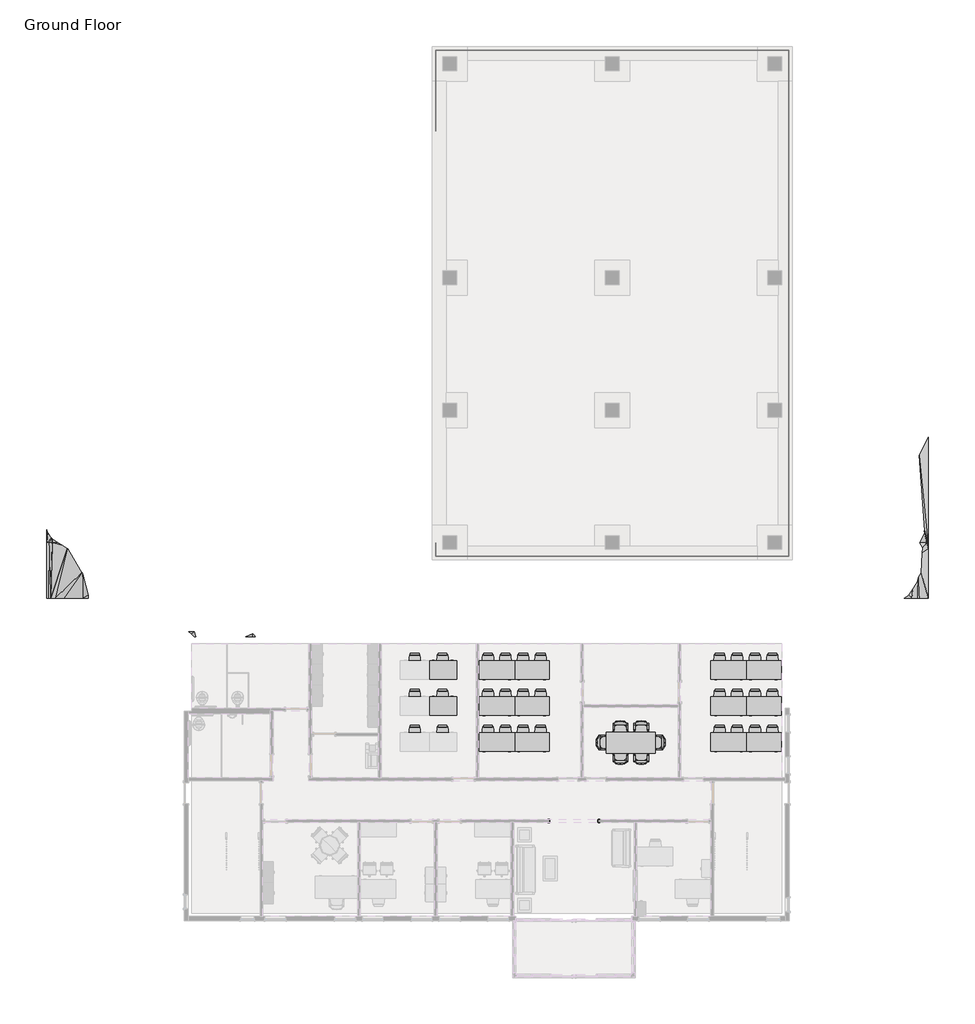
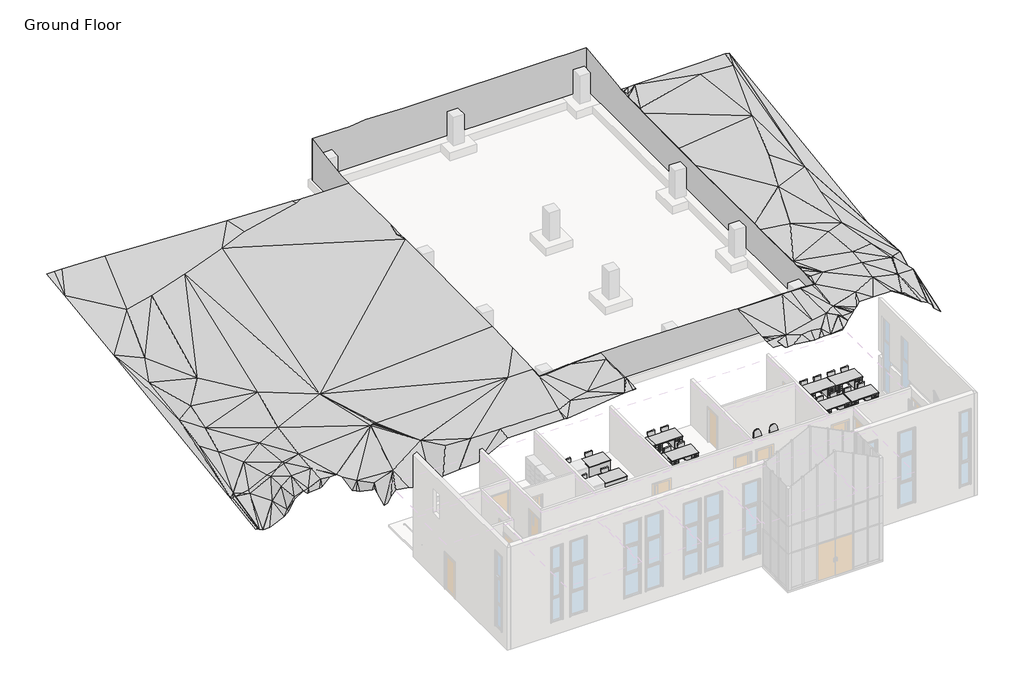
# One storey, part 5 of 5: 51 furniture elements, 6 proxies.
"""IFC4 building model written with IfcOpenShell, lengths in millimetres."""

from ifc_helpers import new_model, si_unit, origin, place, context, project, spatial, triangles, transform, mapped, element, save
from components import proxy_91883092, chair_desk_chair_desk_ccc35c8f, chair_desk_chair_desk_1723cfae, chair_executive_chair_executive_8d69e98c, chair_executive_chair_executive_a5be4872, desk_8768a1f0, furniture_da8d8c81, furniture_072f6425, furniture_8f69458c

model = new_model("IFC4")

# Units and contexts
model_context = context("Model", 3, world=origin())
ifc_project = project(units=[si_unit("LENGTHUNIT", "METRE", prefix="MILLI")], contexts=[model_context])

# Site, building, storey
site = spatial("IfcSite", under=ifc_project)
building = spatial("IfcBuilding", under=site)
storey = spatial("IfcBuildingStorey", under=building, Name="Ground Floor", Elevation=39624.0)

# Proxies
placement = place(None, origin())
element("IfcBuildingElementProxy", 1, Name="Building Element Proxy", at=placement, inside=storey, context=model_context, shape_type="Tessellation", body=[
    triangles([(-14825.691568, 492.0480183, 40208.0387695), (-14825.691568, 492.0480183, 42487.8484497), (-14825.691568, -117.5519817, 40208.0387695), (-14825.691568, -117.5519817, 42463.9010742), (-14757.6306061, -117.5519817, 40208.0387695), (-14757.6306061, -117.5519817, 42463.6452759), (-14512.0688507, -117.5519817, 40208.0387695), (-14512.0688507, -117.5519817, 42461.6267944), (-13213.2923126, -117.5519817, 40208.0387695), (-13213.2923126, -117.5519817, 42576.5035034), (-13097.3819458, -117.5519817, 40208.0387695), (-13097.3819458, -117.5519817, 42584.5960327), (-12971.3128967, -117.5519817, 40208.0387695), (-12971.3128967, -117.5519817, 42587.8144409), (-11376.8358032, -117.5519817, 40208.0387695), (-11376.8358032, -117.5519817, 42662.358728), (-9536.2214081, -117.5519817, 40208.0387695), (-9536.2214081, -117.5519817, 42672.0), (-3847.7395569, -117.5519817, 40208.0387695), (-3847.7395569, -117.5519817, 42566.3971436), (-3707.1806946, -117.5519817, 40208.0387695), (-3707.1806946, -117.5519817, 42560.4626221), (-3634.6755272, -117.5519817, 40208.0387695), (-3634.6755272, -117.5519817, 42564.4902832), (-3531.6614662, -117.5519817, 40208.0387695), (-3531.6614662, -117.5519817, 42567.2436035), (-1118.1737537, -117.5519817, 40208.0387695), (-1118.1737537, -117.5519817, 42573.7083252), (-930.609403, -117.5519817, 40208.0387695), (-930.609403, -117.5519817, 42573.7083252), (-844.679183, -117.5519817, 40208.0387695), (-844.679183, -117.5519817, 42573.294397), (-649.1245497, -117.5519817, 40208.0387695), (-649.1245497, -117.5519817, 42573.294397), (-127.0019591, -117.5519817, 40208.0387695), (-127.0019591, -117.5519817, 42561.9276489), (-95.457382, -117.5519817, 40208.0387695), (-95.457382, -117.5519817, 42561.002124), (-81.5194064, -117.5519817, 40208.0387695), (-81.5194064, -117.5519817, 42560.5602905), (359.6249602, -117.5519817, 40208.0387695), (359.6249602, -117.5519817, 42547.2680786), (534.7179065, -117.5519817, 40208.0387695), (534.7179065, -117.5519817, 42544.4682495), (617.5082382, -117.5519817, 40208.0387695), (617.5082382, -117.5519817, 42539.3662354), (617.5082382, 264.7806404, 40208.0387695), (617.5082382, 264.7806404, 42574.5966431), (617.5082382, 394.358814, 40208.0387695), (617.5082382, 394.358814, 42585.2564575), (617.5082382, 451.9540266, 40208.0387695), (617.5082382, 451.9540266, 42590.4049805), (617.5082382, 637.5418991, 40208.0387695), (617.5082382, 637.5418991, 42607.362085), (617.5082382, 763.1747103, 40208.0387695), (617.5082382, 763.1747103, 42618.5660522), (617.5082382, 1043.7543137, 40208.0387695), (617.5082382, 1043.7543137, 42641.2669922), (617.5082382, 1280.1252056, 40208.0387695), (617.5082382, 1280.1252056, 42643.3924438), (617.5082382, 1508.353862, 40208.0387695), (617.5082382, 1508.353862, 42614.7011719), (617.5082382, 1878.4754562, 40208.0387695), (617.5082382, 1878.4754562, 42622.5518555), (617.5082382, 2208.9770851, 40208.0387695), (617.5082382, 2208.9770851, 42619.3939087), (617.5082382, 5133.5709549, 40208.0387695), (617.5082382, 5133.5709549, 42591.4421265), (617.5082382, 5682.8653336, 40208.0387695), (617.5082382, 5682.8653336, 42616.7894165), (617.5082382, 10958.6008667, 40208.0387695), (617.5082382, 10958.6008667, 42587.1307617), (617.5082382, 11488.1778442, 40208.0387695), (617.5082382, 11488.1778442, 42584.1541992), (617.5082382, 12358.5351837, 40208.0387695), (617.5082382, 12358.5351837, 42601.8042847), (617.5082382, 13073.4461975, 40208.0387695), (617.5082382, 13073.4461975, 42613.622168), (617.5082382, 16325.7674469, 40208.0387695), (617.5082382, 16325.7674469, 42643.387793), (617.5082382, 16505.0623169, 40208.0387695), (617.5082382, 16505.0623169, 42645.0295532), (617.5082382, 16869.3819397, 40208.0387695), (617.5082382, 16869.3819397, 42672.0), (617.5082382, 17870.5045532, 40208.0387695), (617.5082382, 17870.5045532, 42672.0), (617.5082382, 18298.5237762, 40208.0387695), (617.5082382, 18298.5237762, 42698.9006836), (617.5082382, 18345.6383423, 40208.0387695), (617.5082382, 18345.6383423, 42704.030603), (617.5082382, 18487.4448029, 40208.0387695), (617.5082382, 18487.4448029, 42722.9085205), (617.5082382, 18672.6218719, 40208.0387695), (617.5082382, 18672.6218719, 42728.2012207), (617.5082382, 18777.5015167, 40208.0387695), (617.5082382, 18777.5015167, 42742.2887329), (617.5082382, 18802.5011536, 40208.0387695), (617.5082382, 18802.5011536, 42744.9955444), (617.5082382, 22031.2482605, 40208.0387695), (617.5082382, 22031.2482605, 43174.8204712)], [[1, 4, 2], [1, 3, 4], [3, 6, 4], [3, 5, 6], [5, 8, 6], [5, 7, 8], [7, 10, 8], [7, 9, 10], [9, 12, 10], [9, 11, 12], [11, 14, 12], [11, 13, 14], [13, 16, 14], [13, 15, 16], [15, 18, 16], [15, 17, 18], [17, 20, 18], [17, 19, 20], [19, 22, 20], [19, 21, 22], [21, 24, 22], [21, 23, 24], [23, 26, 24], [23, 25, 26], [25, 28, 26], [25, 27, 28], [27, 30, 28], [27, 29, 30], [29, 32, 30], [29, 31, 32], [31, 34, 32], [31, 33, 34], [33, 36, 34], [33, 35, 36], [35, 38, 36], [35, 37, 38], [37, 40, 38], [37, 39, 40], [39, 42, 40], [39, 41, 42], [41, 44, 42], [41, 43, 44], [43, 46, 44], [43, 45, 46], [45, 48, 46], [45, 47, 48], [47, 50, 48], [47, 49, 50], [49, 52, 50], [49, 51, 52], [51, 54, 52], [51, 53, 54], [53, 56, 54], [53, 55, 56], [55, 58, 56], [55, 57, 58], [57, 60, 58], [57, 59, 60], [59, 62, 60], [59, 61, 62], [61, 64, 62], [61, 63, 64], [63, 66, 64], [63, 65, 66], [65, 68, 66], [65, 67, 68], [67, 70, 68], [67, 69, 70], [69, 72, 70], [69, 71, 72], [71, 74, 72], [71, 73, 74], [73, 76, 74], [73, 75, 76], [75, 78, 76], [75, 77, 78], [77, 80, 78], [77, 79, 80], [79, 82, 80], [79, 81, 82], [81, 84, 82], [81, 83, 84], [83, 86, 84], [83, 85, 86], [85, 88, 86], [85, 87, 88], [87, 90, 88], [87, 89, 90], [89, 92, 90], [89, 91, 92], [91, 94, 92], [91, 93, 94], [93, 96, 94], [93, 95, 96], [95, 98, 96], [95, 97, 98], [97, 100, 98], [97, 99, 100]], closed=False),
    triangles([(617.5082382, 22031.2482605, 40208.0387695), (617.5082382, 22031.2482605, 43174.8204712), (-625.5177784, 22031.2482605, 40208.0387695), (-625.5177784, 22031.2482605, 43164.5048218), (-939.6762188, 22031.2482605, 40208.0387695), (-939.6762188, 22031.2482605, 43182.085144), (-9687.3302078, 22031.2482605, 40208.0387695), (-9687.3302078, 22031.2482605, 43197.8748779), (-11842.5794678, 22031.2482605, 40208.0387695), (-11842.5794678, 22031.2482605, 43253.5970581), (-12708.2661621, 22031.2482605, 40208.0387695), (-12708.2661621, 22031.2482605, 43153.3520142), (-13690.3341248, 22031.2482605, 40208.0387695), (-13690.3341248, 22031.2482605, 43149.6359619), (-14825.691568, 22031.2482605, 40208.0387695), (-14825.691568, 22031.2482605, 43169.9603027), (-14825.691568, 20748.5567871, 40208.0387695), (-14825.691568, 20748.5567871, 42941.2300781), (-14825.691568, 19138.3294922, 40208.0387695), (-14825.691568, 19138.3294922, 42684.9945557), (-14825.691568, 18969.9025635, 40208.0387695), (-14825.691568, 18969.9025635, 42672.0), (-14825.691568, 18475.2478729, 40208.0387695), (-14825.691568, 18475.2478729, 42672.0)], [[1, 4, 2], [1, 3, 4], [3, 6, 4], [3, 5, 6], [5, 8, 6], [5, 7, 8], [7, 10, 8], [7, 9, 10], [9, 12, 10], [9, 11, 12], [11, 14, 12], [11, 13, 14], [13, 16, 14], [13, 15, 16], [15, 18, 16], [15, 17, 18], [17, 20, 18], [17, 19, 20], [19, 22, 20], [19, 21, 22], [21, 24, 22], [21, 23, 24]], closed=False),
    triangles([(617.5082382, 22031.2482605, 40208.0387695), (-14825.691568, 22031.2482605, 40208.0387695), (-14825.691568, -117.5519817, 40208.0387695), (617.5082382, -117.5519817, 40208.0387695)], [[2, 3, 1], [4, 1, 3]], closed=False),
])
element("IfcBuildingElementProxy", 2, Name="Building Element Proxy", at=placement, inside=storey, context=model_context, shape_type="Tessellation", body=[
    triangles([(-31843.6911804, 16710.0009705, 43004.221582), (-31843.6911804, 11901.0700836, 42367.2), (-31843.6911804, 492.0480183, 40744.5409058), (-31733.8188171, 492.0480183, 40735.5879639), (-31592.139093, 492.0480183, 40806.7185059), (-31588.6137268, 492.0480183, 40799.5328979), (-31574.4797058, 492.0480183, 40792.0310303), (-31219.6734558, 492.0480183, 40843.2), (-30831.2157715, 492.0480183, 40912.0330078), (-29802.9878357, 492.0480183, 41452.8), (-29261.3069458, 492.0480183, 41614.6831421), (-28876.8397156, 492.0480183, 41757.6), (-28749.3079651, 492.0480183, 41797.5603516), (-28009.7205505, 492.0480183, 42062.4), (-23971.8716675, 492.0480183, 42351.7916382), (-23850.9929993, 492.0480183, 42358.6702881), (-23814.1650146, 492.0480183, 42352.8845947), (-23770.4514038, 492.0480183, 42361.1073486), (-23714.1525146, 492.0480183, 42367.2), (-23679.57323, 492.0480183, 42367.2), (-23646.8729004, 492.0480183, 42367.2), (-16221.5412506, 492.0480183, 42493.1132446), (-14825.691568, 492.0480183, 42487.8484497), (-14825.691568, 2455.7012695, 42564.9832764), (-14825.691568, 4469.817865, 42614.42677), (-14825.691568, 5148.5659698, 42619.3846069), (-14825.691568, 12982.3308289, 42672.0), (-14825.691568, 13368.5433014, 42653.1918457), (-14825.691568, 14442.8114502, 42672.0), (-14825.691568, 18457.0559601, 42672.0), (-14825.691568, 18475.2478729, 42672.0), (-14853.2596527, 18475.2478729, 42672.0), (-14875.2024994, 18475.2478729, 42672.0), (-16727.5917572, 18475.2478729, 42672.0), (-17471.6940125, 18475.2478729, 42672.0), (-17524.9454132, 18475.2478729, 42672.0), (-18010.1262634, 18475.2478729, 42705.7560791), (-21660.9104004, 18475.2478729, 42846.9335083), (-23969.8996948, 18475.2478729, 42926.5658569), (-26116.1245056, 18475.2478729, 43033.3825928), (-28553.5594482, 18475.2478729, 43146.7710205), (-30975.3069763, 18475.2478729, 43196.4982178), (-31405.1621338, 18475.2478729, 43213.2785889), (-31843.6911804, 18475.2478729, 43226.5382446), (-27786.4155762, 2958.4147705, 42062.4), (-30538.5382874, 6649.7272476, 42062.4), (-31308.7377869, 9426.2159134, 42062.4), (-23750.3991394, 563.5628755, 42367.2), (-24787.161438, 4041.7361458, 42367.2), (-27314.4862427, 5698.7713394, 42367.2), (-29302.0998047, 8188.7885376, 42367.2), (-30673.3021545, 10931.1944, 42367.2), (-29569.6509155, 14576.5870056, 42672.0), (-27930.8951294, 15011.3593048, 42672.0), (-25623.2615662, 15780.5704926, 42672.0), (-22914.2990112, 16783.8894836, 42672.0), (-17897.7040558, 18288.8685516, 42672.0), (-14978.091568, 13539.824707, 42672.0), (-21308.9900208, 17452.7695862, 42672.0), (-31396.532428, 6283.3054276, 41757.6), (-30660.4447998, 5056.4942642, 41757.6), (-29005.8085876, 2629.278756, 41757.6), (-28842.5557617, 694.7127554, 41757.6), (-31434.2789612, 4282.6592308, 41452.8), (-30886.9333008, 3357.8325417, 41452.8), (-30245.2166565, 1998.9031345, 41452.8), (-31585.2720703, 715.470064, 40843.2)], [[67, 3, 4], [4, 5, 67], [6, 67, 5], [67, 7, 8], [7, 67, 6], [8, 9, 67], [67, 9, 66], [64, 3, 67], [66, 10, 11], [11, 12, 63], [13, 63, 12], [66, 62, 65], [62, 66, 63], [63, 14, 62], [14, 63, 13], [66, 11, 63], [62, 14, 45], [10, 66, 9], [65, 67, 66], [3, 60, 2], [60, 3, 64], [60, 47, 2], [46, 47, 60], [2, 47, 52], [53, 1, 2], [44, 1, 43], [42, 43, 1], [42, 1, 41], [61, 60, 64], [61, 46, 60], [65, 62, 61], [51, 46, 50], [61, 50, 46], [62, 45, 61], [46, 51, 47], [53, 41, 1], [53, 52, 54], [54, 41, 53], [55, 54, 51], [41, 54, 40], [54, 52, 51], [47, 51, 52], [53, 2, 52], [45, 50, 61], [61, 64, 65], [64, 67, 65], [14, 15, 45], [48, 15, 16], [48, 16, 17], [48, 17, 18], [55, 50, 49], [45, 49, 50], [49, 48, 21], [49, 15, 48], [18, 19, 48], [20, 48, 19], [49, 45, 15], [49, 21, 22], [22, 25, 49], [23, 24, 22], [49, 25, 26], [49, 27, 56], [26, 27, 49], [25, 22, 24], [48, 20, 21], [58, 27, 28], [39, 55, 56], [58, 59, 56], [59, 57, 37], [58, 57, 59], [55, 49, 56], [38, 56, 59], [40, 55, 39], [38, 39, 56], [37, 38, 59], [57, 36, 37], [40, 54, 55], [32, 30, 31], [29, 30, 33], [57, 29, 34], [58, 28, 29], [57, 35, 36], [35, 57, 34], [29, 33, 34], [30, 32, 33], [29, 57, 58], [27, 58, 56], [55, 51, 50]], closed=False),
])
element("IfcBuildingElementProxy", 3, Name="Building Element Proxy", at=placement, inside=storey, context=model_context, shape_type="Tessellation", body=[
    triangles([(6713.5082382, 492.0480183, 40165.4088135), (6713.5082382, 18674.6717468, 42760.4829712), (6497.9452332, 18674.6717468, 42791.1276123), (4995.9084274, 18674.6717468, 42774.1612061), (1396.1425426, 18674.6717468, 42736.2286377), (1038.4202642, 18674.6717468, 42731.4707886), (666.7207867, 18674.6717468, 42728.3872559), (666.7207867, 18517.6011017, 42707.4769043), (666.7207867, 18465.4147522, 42701.7981812), (666.7207867, 17991.3239227, 42672.0), (666.7207867, 16882.4416077, 42672.0), (666.7207867, 16478.9080994, 42642.1274048), (666.7207867, 13083.1467682, 42611.0455811), (666.7207867, 12336.7062836, 42598.7067993), (666.7207867, 11427.962915, 42580.2800171), (666.7207867, 5726.321402, 42612.3338745), (666.7207867, 5132.682637, 42584.9401978), (666.7207867, 1971.988789, 42615.1430054), (666.7207867, 1546.4383106, 42606.1203003), (666.7207867, 1284.0304905, 42639.1089844), (666.7207867, 1012.2610325, 42636.6626221), (666.7207867, 689.6623369, 42610.5618896), (666.7207867, 492.0480183, 42592.5071777), (799.0125664, 492.0480183, 42589.0515747), (1479.6243656, 492.0480183, 42560.6393555), (3683.4841759, 492.0480183, 42367.2), (5344.8493378, 492.0480183, 42083.0824585), (5439.2807831, 492.0480183, 42062.4), (5581.4197815, 492.0480183, 41977.2796143), (5802.4475693, 492.0480183, 41551.4823486), (6651.7358459, 492.0480183, 40409.2683472), (6687.5098251, 492.0480183, 40173.2408936), (6709.4108139, 492.0480183, 40165.9901733), (769.9082382, 18244.656134, 42672.0), (3373.2946793, 8116.293544, 42367.2), (5475.663446, 588.4052908, 42062.4), (6445.5885452, 17787.8409943, 42672.0), (4650.1086044, 17939.5712677, 42672.0), (6423.3154861, 1485.4227036, 41452.8), (4995.1497528, 4690.9264618, 41757.6), (3789.9736061, 1531.8769901, 42367.2), (2314.4234104, 5102.9431732, 42367.2), (4346.6797417, 10704.4105682, 42367.2), (5327.426564, 14001.9069672, 42367.2), (5402.1859543, 7455.5065521, 41757.6), (5795.4113708, 9710.0009171, 41757.6), (5106.4394714, 2043.3174294, 42062.4), (3784.982341, 3959.5911598, 42062.4)], [[22, 24, 21], [20, 21, 25], [20, 25, 19], [18, 19, 25], [22, 23, 24], [18, 48, 42], [35, 42, 40], [18, 42, 17], [42, 16, 17], [16, 42, 35], [16, 35, 15], [41, 18, 25], [25, 21, 24], [10, 34, 9], [11, 5, 10], [6, 7, 8], [9, 6, 8], [5, 11, 38], [14, 15, 43], [13, 14, 43], [34, 5, 6], [34, 10, 5], [34, 6, 9], [13, 44, 12], [12, 38, 11], [35, 43, 15], [27, 28, 36], [26, 27, 41], [41, 27, 47], [36, 28, 29], [36, 29, 30], [36, 47, 27], [41, 48, 18], [31, 32, 39], [30, 31, 39], [39, 33, 1], [33, 39, 32], [39, 1, 46], [30, 39, 36], [47, 36, 39], [48, 47, 40], [47, 48, 41], [45, 35, 40], [45, 46, 35], [38, 37, 4], [44, 38, 12], [38, 4, 5], [13, 43, 44], [47, 39, 40], [48, 40, 42], [43, 46, 44], [43, 35, 46], [40, 39, 45], [44, 46, 37], [37, 2, 3], [2, 37, 46], [3, 4, 37], [39, 46, 45], [37, 38, 44], [1, 2, 46], [41, 25, 26]], closed=False),
])
element("IfcBuildingElementProxy", 4, Name="Building Element Proxy", at=placement, inside=storey, context=model_context, shape_type="Tessellation", body=[
    triangles([(-16221.5412506, 492.0480183, 42493.1132446), (-23646.8729004, 492.0480183, 42367.2), (-23679.57323, 492.0480183, 42367.2), (-23714.1525146, 492.0480183, 42367.2), (-23770.4514038, 492.0480183, 42361.1073486), (-23814.1650146, 492.0480183, 42352.8845947), (-23850.9929993, 492.0480183, 42358.6702881), (-23971.8716675, 492.0480183, 42351.7916382), (-28009.7205505, 492.0480183, 42062.4), (-28749.3079651, 492.0480183, 41797.5603516), (-28876.8397156, 492.0480183, 41757.6), (-29261.3069458, 492.0480183, 41614.6831421), (-29802.9878357, 492.0480183, 41452.8), (-30831.2157715, 492.0480183, 40912.0330078), (-31219.6734558, 492.0480183, 40843.2), (-31574.4797058, 492.0480183, 40792.0310303), (-31588.6137268, 492.0480183, 40799.5328979), (-31592.139093, 492.0480183, 40806.7185059), (-31733.8188171, 492.0480183, 40735.5879639), (-31843.6911804, 492.0480183, 40744.5409058), (-31843.6911804, -1946.3519817, 40397.7388184), (-31743.8833191, -1946.3519817, 40389.6044312), (-31665.3718323, -1946.3519817, 40314.2741455), (-31456.7008484, -1946.3519817, 40233.6), (-31075.6729431, -1946.3519817, 40233.6), (-30250.4861023, -1946.3519817, 40600.0985596), (-29999.8548889, -1946.3519817, 40843.2), (-29660.1221375, -1946.3519817, 41452.8), (-29188.2718689, -1946.3519817, 41757.6), (-28918.8487793, -1946.3519817, 41509.8290771), (-28830.4192932, -1946.3519817, 41530.5254883), (-28262.1749084, -1946.3519817, 41577.699353), (-28132.7339722, -1946.3519817, 41633.4447876), (-27697.2233459, -1946.3519817, 42062.4), (-27377.1266052, -1946.3519817, 42062.4), (-27357.7696472, -1946.3519817, 42062.4), (-27307.7471191, -1946.3519817, 42065.9858276), (-27296.4361816, -1956.1882999, 42066.6090454), (-27093.7369263, -2132.4324841, 41975.1681152), (-26710.90448, -2465.2986488, 41223.2140137), (-26571.3223022, -2586.6633339, 41210.2520142), (-26436.7886536, -2703.6381706, 41213.330896), (-25973.5657654, -3106.4037025, 41374.2606079), (-25864.2584839, -3201.4458664, 41501.5040039), (-25782.0030396, -3272.9647568, 41252.3750244), (-25515.6890625, -3504.5209717, 40548.4970581), (-25379.7113159, -3622.7521271, 40728.3093384), (-25181.8513, -3622.7521271, 41065.5538696), (-24937.0569397, -3622.7521271, 41346.9739014), (-24169.4851868, -3622.7521271, 41218.0608398), (-22846.8891724, -3622.7521271, 40712.3103149), (-22251.24646, -3622.7521271, 41233.3436279), (-21359.2334656, -3622.7521271, 41320.3569214), (-20295.9169739, -3622.7521271, 41351.4945557), (-18629.1675476, -3622.7521271, 42227.9294312), (-18545.7052002, -3622.7521271, 42227.9294312), (-15432.4684845, -3622.7521271, 42234.4778687), (-15276.814032, -3622.7521271, 42227.0457642), (-12080.4207642, -3622.7521271, 42600.9764282), (-11598.1397369, -3622.7521271, 42625.2679687), (-11410.979068, -3622.7521271, 42631.3373657), (-11410.979068, -3598.5678474, 42627.639917), (-11410.979068, -2657.4040741, 42672.0), (-11410.979068, -2536.0472374, 42672.0), (-11410.979068, -796.5760145, 42672.0), (-11410.979068, -633.6019506, 42672.0), (-11410.979068, -176.2894757, 42662.0424683), (-13057.9308655, -176.2894757, 42585.047168), (-14481.8509277, -176.2894757, 42459.0967163), (-14751.0728668, -176.2894757, 42461.3151855), (-14874.9036804, -176.2894757, 42461.7802734), (-14874.9036804, 492.0480183, 42488.0344849), (-24753.7192932, -3014.9421341, 42062.4), (-25835.4741943, -3107.6324066, 41757.6), (-11476.4611176, -774.1960579, 42672.0), (-11443.0178101, -2546.7265274, 42672.0), (-13382.7680145, -2312.6187241, 42367.2), (-14486.4192535, -2546.7265274, 42367.2), (-15389.4059967, -2981.4020302, 42367.2), (-18666.9152435, -2948.0543564, 42367.2), (-20305.6698669, -2914.6101768, 42367.2), (-21676.8722168, -2814.2785103, 42367.2), (-22512.972345, -1877.8471516, 42367.2), (-26465.8543213, -2481.9203087, 41757.6), (-28133.452533, -1867.3999695, 42062.4), (-28131.3270813, -851.0734148, 42062.4), (-29056.1543518, -567.9631519, 41757.6), (-28867.412384, -1908.0184204, 41757.6), (-29735.6175293, 262.493607, 41452.8), (-29716.7442627, -718.9553164, 41452.8), (-29603.5000122, -1793.9519817, 41452.8), (-30905.8065674, 300.2416481, 40843.2), (-30264.0899231, -794.4513622, 40843.2), (-29999.8548889, -1793.9519817, 40843.2)], [[21, 22, 20], [23, 24, 92], [23, 19, 22], [25, 93, 24], [26, 27, 94], [27, 28, 94], [30, 88, 29], [91, 28, 29], [93, 25, 26], [88, 30, 31], [40, 41, 84], [84, 41, 42], [40, 84, 39], [74, 42, 43], [42, 74, 84], [84, 8, 39], [33, 85, 32], [34, 85, 33], [8, 38, 39], [31, 32, 88], [37, 38, 8], [86, 34, 35], [14, 92, 89], [93, 92, 24], [89, 92, 93], [92, 14, 15], [89, 13, 14], [90, 93, 94], [13, 89, 12], [90, 89, 93], [23, 92, 16], [18, 19, 23], [20, 22, 19], [17, 18, 23], [16, 17, 23], [16, 92, 15], [93, 26, 94], [87, 91, 29], [91, 94, 28], [88, 32, 85], [86, 88, 85], [86, 36, 37], [86, 85, 34], [86, 37, 9], [36, 86, 35], [87, 88, 86], [87, 12, 89], [87, 90, 91], [12, 87, 11], [87, 89, 90], [87, 10, 11], [87, 86, 10], [86, 9, 10], [9, 37, 8], [91, 90, 94], [88, 87, 29], [74, 43, 44], [46, 47, 48], [73, 49, 50], [48, 49, 73], [73, 50, 83], [74, 45, 46], [45, 74, 44], [74, 46, 73], [51, 52, 82], [73, 46, 48], [53, 82, 52], [51, 83, 50], [73, 8, 84], [80, 54, 55], [80, 55, 56], [60, 63, 59], [62, 60, 61], [54, 80, 81], [56, 57, 79], [56, 79, 80], [1, 81, 80], [79, 58, 78], [58, 79, 57], [59, 78, 58], [62, 63, 60], [1, 80, 79], [54, 81, 53], [53, 81, 82], [1, 2, 83], [83, 2, 3], [82, 83, 51], [83, 82, 81], [1, 71, 72], [71, 1, 79], [81, 1, 83], [83, 6, 7], [7, 8, 83], [83, 4, 5], [5, 6, 83], [83, 3, 4], [83, 8, 73], [59, 76, 77], [77, 78, 59], [75, 77, 76], [69, 78, 77], [64, 65, 76], [63, 64, 76], [78, 71, 79], [65, 75, 76], [77, 68, 69], [69, 70, 78], [75, 66, 67], [66, 75, 65], [75, 67, 68], [75, 68, 77], [78, 70, 71], [76, 59, 63], [73, 84, 74]], closed=False),
])
element("IfcBuildingElementProxy", 5, Name="Building Element Proxy", at=placement, inside=storey, context=model_context, shape_type="Tessellation", body=[
    triangles([(6713.5082382, 223.4081839, 40127.0669678), (6713.5082382, 492.0480183, 40165.4088135), (6709.4108139, 492.0480183, 40165.9901733), (6687.5098251, 492.0480183, 40173.2408936), (6651.7358459, 492.0480183, 40409.2683472), (5802.4475693, 492.0480183, 41551.4823486), (5581.4197815, 492.0480183, 41977.2796143), (5439.2807831, 492.0480183, 42062.4), (5344.8493378, 492.0480183, 42083.0824585), (3683.4841759, 492.0480183, 42367.2), (1479.6243656, 492.0480183, 42560.6393555), (799.0125664, 492.0480183, 42589.0515747), (666.7207867, 492.0480183, 42592.5071777), (666.7207867, -166.7644757, 42532.3015503), (652.5906898, -166.7644757, 42532.6689697), (524.0614348, -166.7644757, 42540.5894165), (334.8333776, -166.7644757, 42543.6171387), (-141.9242132, -166.7644757, 42557.9790527), (-682.7803442, -166.7644757, 42569.7504272), (-885.3514097, -166.7644757, 42569.7504272), (-974.3647991, -166.7644757, 42570.182959), (-1168.6588989, -166.7644757, 42570.182959), (-3668.7417618, -166.7644757, 42563.4856934), (-3668.7417618, -2603.8250771, 42395.5378052), (-3668.7417618, -2999.2634399, 42367.2), (-3668.7417618, -3544.7699684, 42367.2), (-3668.7417618, -3622.7521271, 42367.2), (-3580.2651855, -3622.7521271, 42367.2), (-3211.5417618, -3622.7521271, 42367.2), (-3004.1590714, -3622.7521271, 42156.7849365), (-2850.4103165, -3622.7521271, 42123.3962769), (-2550.4280457, -3622.7521271, 42171.5189209), (-1582.040062, -3622.7521271, 42032.4948486), (-1331.8996616, -3622.7521271, 42001.3758179), (-1079.7593107, -3622.7521271, 42047.68927), (-801.4155447, -3622.7521271, 42047.68927), (-441.4893674, -3622.7521271, 42062.4), (198.728513, -3622.7521271, 42062.4), (314.5365423, -3522.058564, 42062.4), (483.6728391, -3374.9969009, 42062.4), (784.0070869, -3113.8605148, 42062.4), (787.8670258, -3110.5043243, 42062.4), (835.2304138, -3069.3225357, 42062.4), (862.4592024, -3045.6475273, 42062.4), (919.8018505, -2995.7889427, 42062.4), (922.7716547, -2993.2065422, 42062.4), (975.4387888, -2947.4134071, 42062.4), (1049.9279921, -2882.6461395, 42062.4), (1095.3837204, -2843.1229706, 42062.4), (1169.0247923, -2779.093158, 42062.4), (1184.4857672, -2765.6500832, 42062.4), (1289.6270966, -2674.230954, 42062.4), (1336.9759506, -2633.0619553, 42062.4), (1382.3871323, -2593.5774467, 42062.4), (1457.3863335, -2528.3666016, 42062.4), (1595.2469593, -2408.4989182, 42062.4), (1600.8409492, -2403.6349709, 42062.4), (1776.2123669, -2251.1519817, 42062.4), (2126.7643707, -1946.3519817, 42062.4), (2905.2055183, -1946.3519817, 42062.4), (3942.0320572, -1946.3519817, 42062.4), (4700.6854591, -1946.3519817, 41681.4), (4943.174437, -1946.3519817, 41452.8), (5624.4555267, -1946.3519817, 40843.2), (5995.5218307, -1946.3519817, 40655.0719482), (6269.6678879, -1946.3519817, 40406.4871216), (6329.6409714, -1946.3519817, 40220.4798706), (6713.5082382, -1946.3519817, 39861.5250366), (3547.9334381, -831.5545481, 42367.2), (2163.3744907, -1546.0021454, 42367.2), (4725.9737411, -1668.1789902, 41452.8), (4931.8664063, -851.7996786, 42062.4), (47.6109202, -2367.0521748, 42367.2), (-862.7732094, -2544.0711662, 42367.2), (-1903.5736336, -3335.0138763, 42367.2), (-2607.6760048, -2981.4020302, 42367.2), (-3211.5417618, -2981.4020302, 42367.2), (-3492.7719795, -2999.2634399, 42367.2), (-1352.8108852, -3268.1144714, 42367.2), (6233.0590759, -101.677124, 41452.8), (-3211.5417618, -3265.0367523, 42367.2), (-817.3946566, -3362.4659798, 42367.2), (455.190893, -2800.0520531, 42367.2), (613.5144413, -1988.6850082, 42367.2), (861.1272343, -3043.4258606, 42062.4), (919.5529558, -2991.1499817, 42062.4), (801.3129347, -2581.2049461, 42062.4), (1325.4579037, -2572.9449852, 42062.4), (1430.0092255, -2489.9189484, 42062.4)], [[27, 28, 26], [32, 33, 75], [81, 31, 76], [28, 81, 26], [81, 28, 29], [81, 29, 30], [26, 81, 78], [31, 32, 76], [75, 33, 79], [76, 32, 75], [31, 81, 30], [79, 74, 75], [33, 34, 79], [79, 35, 82], [82, 36, 37], [35, 36, 82], [37, 38, 39], [39, 83, 37], [37, 73, 82], [40, 83, 39], [83, 41, 42], [83, 40, 41], [79, 82, 74], [35, 79, 34], [42, 43, 83], [24, 25, 78], [81, 77, 78], [77, 81, 76], [77, 76, 24], [78, 77, 24], [25, 26, 78], [24, 76, 23], [23, 76, 22], [21, 22, 74], [20, 74, 19], [74, 20, 21], [19, 74, 73], [76, 74, 22], [75, 74, 76], [18, 73, 84], [73, 18, 19], [87, 84, 73], [85, 87, 83], [14, 84, 70], [87, 73, 83], [74, 82, 73], [18, 84, 17], [84, 16, 17], [84, 15, 16], [14, 12, 13], [11, 12, 14], [84, 14, 15], [87, 88, 84], [83, 73, 37], [85, 83, 43], [85, 44, 45], [44, 85, 43], [86, 45, 46], [45, 86, 85], [86, 46, 47], [87, 86, 47], [49, 87, 48], [48, 87, 47], [87, 51, 88], [50, 51, 87], [49, 50, 87], [88, 51, 52], [88, 53, 54], [53, 88, 52], [54, 55, 89], [89, 55, 56], [54, 89, 88], [89, 57, 84], [58, 84, 57], [57, 89, 56], [80, 66, 67], [80, 67, 68], [58, 70, 84], [88, 89, 84], [70, 59, 60], [71, 61, 62], [60, 61, 69], [71, 62, 63], [11, 70, 69], [14, 70, 11], [70, 60, 69], [11, 69, 10], [69, 72, 10], [72, 69, 71], [64, 72, 71], [10, 72, 9], [61, 71, 69], [71, 63, 64], [70, 58, 59], [9, 72, 8], [72, 64, 65], [72, 80, 8], [66, 80, 65], [80, 68, 1], [8, 80, 7], [80, 72, 65], [5, 80, 1], [80, 6, 7], [80, 5, 6], [4, 5, 1], [1, 3, 4], [1, 2, 3], [86, 87, 85]], closed=False),
])
proxy_shape = proxy_91883092(model_context)
element("IfcBuildingElementProxy", 6, Name="Opening-Cased : 84\" x 84\"", ObjectType="Opening-Cased : 84\" x 84\"", at=placement, inside=storey, context=model_context, shape_type="MappedRepresentation", body=[
    mapped(proxy_shape, transform((-8772.3030769, -11688.8394844, 39624.0), x_axis=(1.0, 0.0, 0.0), y_axis=(0.0, 1.0, 0.0), z_axis=(0.0, 0.0, 1.0))),
])

# Furniture
chair_desk_chair_desk_shape = chair_desk_chair_desk_ccc35c8f(model_context)
element("IfcFurniture", 7, ObjectType="Chair-Desk : Chair-Desk", at=placement, inside=storey, context=model_context, shape_type="MappedRepresentation", body=[
    mapped(chair_desk_chair_desk_shape, transform((-15740.1185316, -7570.8644853, 39624.0), x_axis=(-0.9999999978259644, -6.593990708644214e-05, 0.0), y_axis=(6.593990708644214e-05, -0.9999999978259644, 0.0), z_axis=(0.0, 0.0, 1.0))),
])
element("IfcFurniture", 8, ObjectType="Chair-Desk : Chair-Desk", at=placement, inside=storey, context=model_context, shape_type="MappedRepresentation", body=[
    mapped(chair_desk_chair_desk_shape, transform((-15740.1185316, -5996.0644853, 39624.0), x_axis=(-0.9999999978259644, -6.593990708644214e-05, 0.0), y_axis=(6.593990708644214e-05, -0.9999999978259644, 0.0), z_axis=(0.0, 0.0, 1.0))),
])
element("IfcFurniture", 9, ObjectType="Chair-Desk : Chair-Desk", at=placement, inside=storey, context=model_context, shape_type="MappedRepresentation", body=[
    mapped(chair_desk_chair_desk_shape, transform((-15740.1185316, -4421.2644853, 39624.0), x_axis=(-0.9999999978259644, -6.593990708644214e-05, 0.0), y_axis=(6.593990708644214e-05, -0.9999999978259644, 0.0), z_axis=(0.0, 0.0, 1.0))),
])
element("IfcFurniture", 10, ObjectType="Chair-Desk : Chair-Desk", at=placement, inside=storey, context=model_context, shape_type="MappedRepresentation", body=[
    mapped(chair_desk_chair_desk_shape, transform((-12539.6917336, -7571.0017382, 39624.0), x_axis=(-1.0, 0.0, 0.0), y_axis=(0.0, -1.0, 0.0), z_axis=(0.0, 0.0, 1.0))),
])
element("IfcFurniture", 11, ObjectType="Chair-Desk : Chair-Desk", at=placement, inside=storey, context=model_context, shape_type="MappedRepresentation", body=[
    mapped(chair_desk_chair_desk_shape, transform((-11777.6917336, -7571.0594038, 39624.0), x_axis=(-1.0, 0.0, 0.0), y_axis=(0.0, -1.0, 0.0), z_axis=(0.0, 0.0, 1.0))),
])
element("IfcFurniture", 12, ObjectType="Chair-Desk : Chair-Desk", at=placement, inside=storey, context=model_context, shape_type="MappedRepresentation", body=[
    mapped(chair_desk_chair_desk_shape, transform((-10996.6417336, -7571.0017382, 39624.0), x_axis=(-1.0, 0.0, 0.0), y_axis=(0.0, -1.0, 0.0), z_axis=(0.0, 0.0, 1.0))),
])
element("IfcFurniture", 13, ObjectType="Chair-Desk : Chair-Desk", at=placement, inside=storey, context=model_context, shape_type="MappedRepresentation", body=[
    mapped(chair_desk_chair_desk_shape, transform((-10234.6417336, -7571.0594038, 39624.0), x_axis=(-1.0, 0.0, 0.0), y_axis=(0.0, -1.0, 0.0), z_axis=(0.0, 0.0, 1.0))),
])
element("IfcFurniture", 14, ObjectType="Chair-Desk : Chair-Desk", at=placement, inside=storey, context=model_context, shape_type="MappedRepresentation", body=[
    mapped(chair_desk_chair_desk_shape, transform((-12539.6917336, -5996.2017382, 39624.0), x_axis=(-1.0, 0.0, 0.0), y_axis=(0.0, -1.0, 0.0), z_axis=(0.0, 0.0, 1.0))),
])
element("IfcFurniture", 15, ObjectType="Chair-Desk : Chair-Desk", at=placement, inside=storey, context=model_context, shape_type="MappedRepresentation", body=[
    mapped(chair_desk_chair_desk_shape, transform((-11777.6917336, -5996.2594038, 39624.0), x_axis=(-1.0, 0.0, 0.0), y_axis=(0.0, -1.0, 0.0), z_axis=(0.0, 0.0, 1.0))),
])
element("IfcFurniture", 16, ObjectType="Chair-Desk : Chair-Desk", at=placement, inside=storey, context=model_context, shape_type="MappedRepresentation", body=[
    mapped(chair_desk_chair_desk_shape, transform((-10996.6417336, -5996.2017382, 39624.0), x_axis=(-1.0, 0.0, 0.0), y_axis=(0.0, -1.0, 0.0), z_axis=(0.0, 0.0, 1.0))),
])
element("IfcFurniture", 17, ObjectType="Chair-Desk : Chair-Desk", at=placement, inside=storey, context=model_context, shape_type="MappedRepresentation", body=[
    mapped(chair_desk_chair_desk_shape, transform((-10234.6417336, -5996.2594038, 39624.0), x_axis=(-1.0, 0.0, 0.0), y_axis=(0.0, -1.0, 0.0), z_axis=(0.0, 0.0, 1.0))),
])
element("IfcFurniture", 18, ObjectType="Chair-Desk : Chair-Desk", at=placement, inside=storey, context=model_context, shape_type="MappedRepresentation", body=[
    mapped(chair_desk_chair_desk_shape, transform((-12539.6917336, -4421.4017382, 39624.0), x_axis=(-1.0, 0.0, 0.0), y_axis=(0.0, -1.0, 0.0), z_axis=(0.0, 0.0, 1.0))),
])
element("IfcFurniture", 19, ObjectType="Chair-Desk : Chair-Desk", at=placement, inside=storey, context=model_context, shape_type="MappedRepresentation", body=[
    mapped(chair_desk_chair_desk_shape, transform((-11777.6917336, -4421.4594038, 39624.0), x_axis=(-1.0, 0.0, 0.0), y_axis=(0.0, -1.0, 0.0), z_axis=(0.0, 0.0, 1.0))),
])
element("IfcFurniture", 20, ObjectType="Chair-Desk : Chair-Desk", at=placement, inside=storey, context=model_context, shape_type="MappedRepresentation", body=[
    mapped(chair_desk_chair_desk_shape, transform((-10996.6417336, -4421.4017382, 39624.0), x_axis=(-1.0, 0.0, 0.0), y_axis=(0.0, -1.0, 0.0), z_axis=(0.0, 0.0, 1.0))),
])
element("IfcFurniture", 21, ObjectType="Chair-Desk : Chair-Desk", at=placement, inside=storey, context=model_context, shape_type="MappedRepresentation", body=[
    mapped(chair_desk_chair_desk_shape, transform((-10234.6417336, -4421.4594038, 39624.0), x_axis=(-1.0, 0.0, 0.0), y_axis=(0.0, -1.0, 0.0), z_axis=(0.0, 0.0, 1.0))),
])
element("IfcFurniture", 22, ObjectType="Chair-Desk : Chair-Desk", at=placement, inside=storey, context=model_context, shape_type="MappedRepresentation", body=[
    mapped(chair_desk_chair_desk_shape, transform((-2405.0917336, -7571.0017382, 39624.0), x_axis=(-1.0, 0.0, 0.0), y_axis=(0.0, -1.0, 0.0), z_axis=(0.0, 0.0, 1.0))),
])
element("IfcFurniture", 23, ObjectType="Chair-Desk : Chair-Desk", at=placement, inside=storey, context=model_context, shape_type="MappedRepresentation", body=[
    mapped(chair_desk_chair_desk_shape, transform((-1643.0917336, -7571.0594038, 39624.0), x_axis=(-1.0, 0.0, 0.0), y_axis=(0.0, -1.0, 0.0), z_axis=(0.0, 0.0, 1.0))),
])
element("IfcFurniture", 24, ObjectType="Chair-Desk : Chair-Desk", at=placement, inside=storey, context=model_context, shape_type="MappedRepresentation", body=[
    mapped(chair_desk_chair_desk_shape, transform((-862.0417336, -7571.0017382, 39624.0), x_axis=(-1.0, 0.0, 0.0), y_axis=(0.0, -1.0, 0.0), z_axis=(0.0, 0.0, 1.0))),
])
element("IfcFurniture", 25, ObjectType="Chair-Desk : Chair-Desk", at=placement, inside=storey, context=model_context, shape_type="MappedRepresentation", body=[
    mapped(chair_desk_chair_desk_shape, transform((-100.0417336, -7571.0594038, 39624.0), x_axis=(-1.0, 0.0, 0.0), y_axis=(0.0, -1.0, 0.0), z_axis=(0.0, 0.0, 1.0))),
])
element("IfcFurniture", 26, ObjectType="Chair-Desk : Chair-Desk", at=placement, inside=storey, context=model_context, shape_type="MappedRepresentation", body=[
    mapped(chair_desk_chair_desk_shape, transform((-2405.0917336, -5996.2017382, 39624.0), x_axis=(-1.0, 0.0, 0.0), y_axis=(0.0, -1.0, 0.0), z_axis=(0.0, 0.0, 1.0))),
])
element("IfcFurniture", 27, ObjectType="Chair-Desk : Chair-Desk", at=placement, inside=storey, context=model_context, shape_type="MappedRepresentation", body=[
    mapped(chair_desk_chair_desk_shape, transform((-1643.0917336, -5996.2594038, 39624.0), x_axis=(-1.0, 0.0, 0.0), y_axis=(0.0, -1.0, 0.0), z_axis=(0.0, 0.0, 1.0))),
])
element("IfcFurniture", 28, ObjectType="Chair-Desk : Chair-Desk", at=placement, inside=storey, context=model_context, shape_type="MappedRepresentation", body=[
    mapped(chair_desk_chair_desk_shape, transform((-862.0417336, -5996.2017382, 39624.0), x_axis=(-1.0, 0.0, 0.0), y_axis=(0.0, -1.0, 0.0), z_axis=(0.0, 0.0, 1.0))),
])
element("IfcFurniture", 29, ObjectType="Chair-Desk : Chair-Desk", at=placement, inside=storey, context=model_context, shape_type="MappedRepresentation", body=[
    mapped(chair_desk_chair_desk_shape, transform((-100.0417336, -5996.2594038, 39624.0), x_axis=(-1.0, 0.0, 0.0), y_axis=(0.0, -1.0, 0.0), z_axis=(0.0, 0.0, 1.0))),
])
element("IfcFurniture", 30, ObjectType="Chair-Desk : Chair-Desk", at=placement, inside=storey, context=model_context, shape_type="MappedRepresentation", body=[
    mapped(chair_desk_chair_desk_shape, transform((-2405.0917336, -4421.4017382, 39624.0), x_axis=(-1.0, 0.0, 0.0), y_axis=(0.0, -1.0, 0.0), z_axis=(0.0, 0.0, 1.0))),
])
element("IfcFurniture", 31, ObjectType="Chair-Desk : Chair-Desk", at=placement, inside=storey, context=model_context, shape_type="MappedRepresentation", body=[
    mapped(chair_desk_chair_desk_shape, transform((-1643.0917336, -4421.4594038, 39624.0), x_axis=(-1.0, 0.0, 0.0), y_axis=(0.0, -1.0, 0.0), z_axis=(0.0, 0.0, 1.0))),
])
element("IfcFurniture", 32, ObjectType="Chair-Desk : Chair-Desk", at=placement, inside=storey, context=model_context, shape_type="MappedRepresentation", body=[
    mapped(chair_desk_chair_desk_shape, transform((-862.0417336, -4421.4017382, 39624.0), x_axis=(-1.0, 0.0, 0.0), y_axis=(0.0, -1.0, 0.0), z_axis=(0.0, 0.0, 1.0))),
])
element("IfcFurniture", 33, ObjectType="Chair-Desk : Chair-Desk", at=placement, inside=storey, context=model_context, shape_type="MappedRepresentation", body=[
    mapped(chair_desk_chair_desk_shape, transform((-100.0417336, -4421.4594038, 39624.0), x_axis=(-1.0, 0.0, 0.0), y_axis=(0.0, -1.0, 0.0), z_axis=(0.0, 0.0, 1.0))),
])
chair_desk_chair_desk_2_shape = chair_desk_chair_desk_1723cfae(model_context)
element("IfcFurniture", 34, ObjectType="Chair-Desk : Chair-Desk", at=placement, inside=storey, context=model_context, shape_type="MappedRepresentation", body=[
    mapped(chair_desk_chair_desk_2_shape, transform((-14520.8649356, -7570.8644853, 39624.0), x_axis=(0.9999999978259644, -6.593990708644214e-05, 0.0), y_axis=(6.593990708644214e-05, 0.9999999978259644, 0.0), z_axis=(0.0, 0.0, 1.0))),
])
element("IfcFurniture", 35, ObjectType="Chair-Desk : Chair-Desk", at=placement, inside=storey, context=model_context, shape_type="MappedRepresentation", body=[
    mapped(chair_desk_chair_desk_2_shape, transform((-14520.8649356, -5996.0644853, 39624.0), x_axis=(0.9999999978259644, -6.593990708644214e-05, 0.0), y_axis=(6.593990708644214e-05, 0.9999999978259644, 0.0), z_axis=(0.0, 0.0, 1.0))),
])
element("IfcFurniture", 36, ObjectType="Chair-Desk : Chair-Desk", at=placement, inside=storey, context=model_context, shape_type="MappedRepresentation", body=[
    mapped(chair_desk_chair_desk_2_shape, transform((-14520.8649356, -4421.2644853, 39624.0), x_axis=(0.9999999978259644, -6.593990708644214e-05, 0.0), y_axis=(6.593990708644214e-05, 0.9999999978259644, 0.0), z_axis=(0.0, 0.0, 1.0))),
])
chair_executive_chair_executive_shape = chair_executive_chair_executive_8d69e98c(model_context)
element("IfcFurniture", 37, ObjectType="Chair-Executive : Chair-Executive", at=placement, inside=storey, context=model_context, shape_type="MappedRepresentation", body=[
    mapped(chair_executive_chair_executive_shape, transform((-6889.4825532, -8862.9853861, 39624.0), x_axis=(1.0, 0.0, 0.0), y_axis=(0.0, 1.0, 0.0), z_axis=(0.0, 0.0, 1.0))),
])
element("IfcFurniture", 38, ObjectType="Chair-Executive : Chair-Executive", at=placement, inside=storey, context=model_context, shape_type="MappedRepresentation", body=[
    mapped(chair_executive_chair_executive_shape, transform((-5975.0825532, -8862.9853861, 39624.0), x_axis=(1.0, 0.0, 0.0), y_axis=(0.0, 1.0, 0.0), z_axis=(0.0, 0.0, 1.0))),
])
element("IfcFurniture", 39, ObjectType="Chair-Executive : Chair-Executive", at=placement, inside=storey, context=model_context, shape_type="MappedRepresentation", body=[
    mapped(chair_executive_chair_executive_shape, transform((-5129.3458319, -8400.8303041, 39624.0), x_axis=(0.0, 1.0, 0.0), y_axis=(-1.0, 0.0, 0.0), z_axis=(0.0, 0.0, 1.0))),
])
chair_executive_chair_executive_2_shape = chair_executive_chair_executive_a5be4872(model_context)
element("IfcFurniture", 40, ObjectType="Chair-Executive : Chair-Executive", at=placement, inside=storey, context=model_context, shape_type="MappedRepresentation", body=[
    mapped(chair_executive_chair_executive_2_shape, transform((-6889.4825532, -7656.6935828, 39624.0), x_axis=(1.0, 0.0, 0.0), y_axis=(0.0, 1.0, 0.0), z_axis=(0.0, 0.0, 1.0))),
])
element("IfcFurniture", 41, ObjectType="Chair-Executive : Chair-Executive", at=placement, inside=storey, context=model_context, shape_type="MappedRepresentation", body=[
    mapped(chair_executive_chair_executive_2_shape, transform((-5975.0825532, -7656.6935828, 39624.0), x_axis=(1.0, 0.0, 0.0), y_axis=(0.0, 1.0, 0.0), z_axis=(0.0, 0.0, 1.0))),
])
element("IfcFurniture", 42, ObjectType="Chair-Executive : Chair-Executive", at=placement, inside=storey, context=model_context, shape_type="MappedRepresentation", body=[
    mapped(chair_executive_chair_executive_2_shape, transform((-7453.2376352, -8400.8303041, 39624.0), x_axis=(0.0, 1.0, 0.0), y_axis=(-1.0, 0.0, 0.0), z_axis=(0.0, 0.0, 1.0))),
])
desk_shape = desk_8768a1f0(model_context)
element("IfcFurniture", 43, ObjectType="Desk : 48\" x 30\" Dispatch", at=placement, inside=storey, context=model_context, shape_type="MappedRepresentation", body=[
    mapped(desk_shape, transform((-15130.4917336, -7040.6394844, 39624.0), x_axis=(1.0, 0.0, 0.0), y_axis=(0.0, 1.0, 0.0), z_axis=(0.0, 0.0, 1.0))),
])
element("IfcFurniture", 44, ObjectType="Desk : 48\" x 30\" Dispatch", at=placement, inside=storey, context=model_context, shape_type="MappedRepresentation", body=[
    mapped(desk_shape, transform((-15130.4917336, -5465.8394844, 39624.0), x_axis=(1.0, 0.0, 0.0), y_axis=(0.0, 1.0, 0.0), z_axis=(0.0, 0.0, 1.0))),
])
furniture_shape = furniture_da8d8c81(model_context)
element("IfcFurniture", 45, ObjectType="Desk : 60\" x 30\" Student", at=placement, inside=storey, context=model_context, shape_type="MappedRepresentation", body=[
    mapped(furniture_shape, transform((-11391.9292336, -7853.4394844, 39624.0), x_axis=(1.0, 0.0, 0.0), y_axis=(0.0, 1.0, 0.0), z_axis=(0.0, 0.0, 1.0))),
])
element("IfcFurniture", 46, ObjectType="Desk : 60\" x 30\" Student", at=placement, inside=storey, context=model_context, shape_type="MappedRepresentation", body=[
    mapped(furniture_shape, transform((-11391.9292336, -6278.6394844, 39624.0), x_axis=(1.0, 0.0, 0.0), y_axis=(0.0, 1.0, 0.0), z_axis=(0.0, 0.0, 1.0))),
])
element("IfcFurniture", 47, ObjectType="Desk : 60\" x 30\" Student", at=placement, inside=storey, context=model_context, shape_type="MappedRepresentation", body=[
    mapped(furniture_shape, transform((-11391.9292336, -4703.8394844, 39624.0), x_axis=(1.0, 0.0, 0.0), y_axis=(0.0, 1.0, 0.0), z_axis=(0.0, 0.0, 1.0))),
])
element("IfcFurniture", 48, ObjectType="Desk : 60\" x 30\" Student", at=placement, inside=storey, context=model_context, shape_type="MappedRepresentation", body=[
    mapped(furniture_shape, transform((-1257.3292336, -7853.4394844, 39624.0), x_axis=(1.0, 0.0, 0.0), y_axis=(0.0, 1.0, 0.0), z_axis=(0.0, 0.0, 1.0))),
])
element("IfcFurniture", 49, ObjectType="Desk : 60\" x 30\" Student", at=placement, inside=storey, context=model_context, shape_type="MappedRepresentation", body=[
    mapped(furniture_shape, transform((-1257.3292336, -6278.6394844, 39624.0), x_axis=(1.0, 0.0, 0.0), y_axis=(0.0, 1.0, 0.0), z_axis=(0.0, 0.0, 1.0))),
])
element("IfcFurniture", 50, ObjectType="Desk : 60\" x 30\" Student", at=placement, inside=storey, context=model_context, shape_type="MappedRepresentation", body=[
    mapped(furniture_shape, transform((-1257.3292336, -4703.8394844, 39624.0), x_axis=(1.0, 0.0, 0.0), y_axis=(0.0, 1.0, 0.0), z_axis=(0.0, 0.0, 1.0))),
])
furniture_2_shape = furniture_072f6425(model_context)
element("IfcFurniture", 51, ObjectType="Desk : 60\" x 30\" Student", at=placement, inside=storey, context=model_context, shape_type="MappedRepresentation", body=[
    mapped(furniture_2_shape, transform((-11391.9292336, -7853.4394844, 39624.0), x_axis=(-1.0, 0.0, 0.0), y_axis=(0.0, -1.0, 0.0), z_axis=(0.0, 0.0, 1.0))),
])
element("IfcFurniture", 52, ObjectType="Desk : 60\" x 30\" Student", at=placement, inside=storey, context=model_context, shape_type="MappedRepresentation", body=[
    mapped(furniture_2_shape, transform((-11391.9292336, -6278.6394844, 39624.0), x_axis=(-1.0, 0.0, 0.0), y_axis=(0.0, -1.0, 0.0), z_axis=(0.0, 0.0, 1.0))),
])
element("IfcFurniture", 53, ObjectType="Desk : 60\" x 30\" Student", at=placement, inside=storey, context=model_context, shape_type="MappedRepresentation", body=[
    mapped(furniture_2_shape, transform((-11391.9292336, -4703.8394844, 39624.0), x_axis=(-1.0, 0.0, 0.0), y_axis=(0.0, -1.0, 0.0), z_axis=(0.0, 0.0, 1.0))),
])
element("IfcFurniture", 54, ObjectType="Desk : 60\" x 30\" Student", at=placement, inside=storey, context=model_context, shape_type="MappedRepresentation", body=[
    mapped(furniture_2_shape, transform((-1257.3292336, -7853.4394844, 39624.0), x_axis=(-1.0, 0.0, 0.0), y_axis=(0.0, -1.0, 0.0), z_axis=(0.0, 0.0, 1.0))),
])
element("IfcFurniture", 55, ObjectType="Desk : 60\" x 30\" Student", at=placement, inside=storey, context=model_context, shape_type="MappedRepresentation", body=[
    mapped(furniture_2_shape, transform((-1257.3292336, -6278.6394844, 39624.0), x_axis=(-1.0, 0.0, 0.0), y_axis=(0.0, -1.0, 0.0), z_axis=(0.0, 0.0, 1.0))),
])
element("IfcFurniture", 56, ObjectType="Desk : 60\" x 30\" Student", at=placement, inside=storey, context=model_context, shape_type="MappedRepresentation", body=[
    mapped(furniture_2_shape, transform((-1257.3292336, -4703.8394844, 39624.0), x_axis=(-1.0, 0.0, 0.0), y_axis=(0.0, -1.0, 0.0), z_axis=(0.0, 0.0, 1.0))),
])
furniture_3_shape = furniture_8f69458c(model_context)
element("IfcFurniture", 57, ObjectType="Table-Conference1 : 36\" x 84\"", at=placement, inside=storey, context=model_context, shape_type="MappedRepresentation", body=[
    mapped(furniture_3_shape, transform((-6291.2917336, -8259.8394844, 39624.0), x_axis=(1.0, 0.0, 0.0), y_axis=(0.0, 1.0, 0.0), z_axis=(0.0, 0.0, 1.0))),
])

save(model, "model.ifc")
